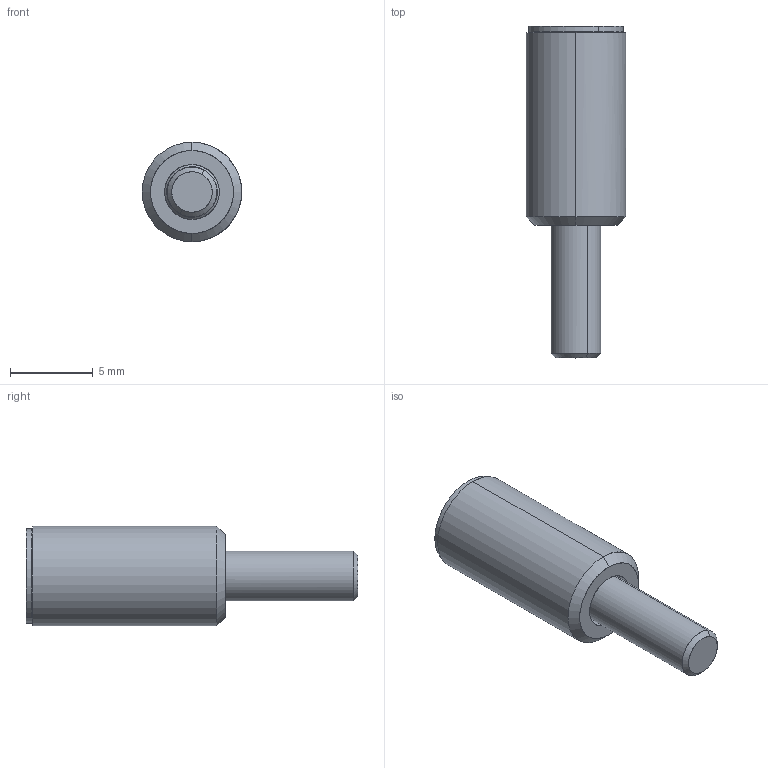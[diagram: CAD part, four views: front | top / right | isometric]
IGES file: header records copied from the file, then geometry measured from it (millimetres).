
Start section: START RECORD GO HERE.
Global section: file name: po120320.igs; native system: DASSAULT SYSTEMES CATIA V5 R20 - www.3ds.com; preprocessor: CATIA Version 5 Release 20 ; author: Utente; organization: NB04-ASUS; date: 20201103.211159; units: millimetre
Bounding box: 6 x 20 x 6 mm (x, y, z)
Surface area: 611.9 mm2 (no closed solid volume)
Topology: 0 solids, 0 shells, 36 faces, 150 edges, 148 vertices
Faces by surface type: revolution 20, plane 16
